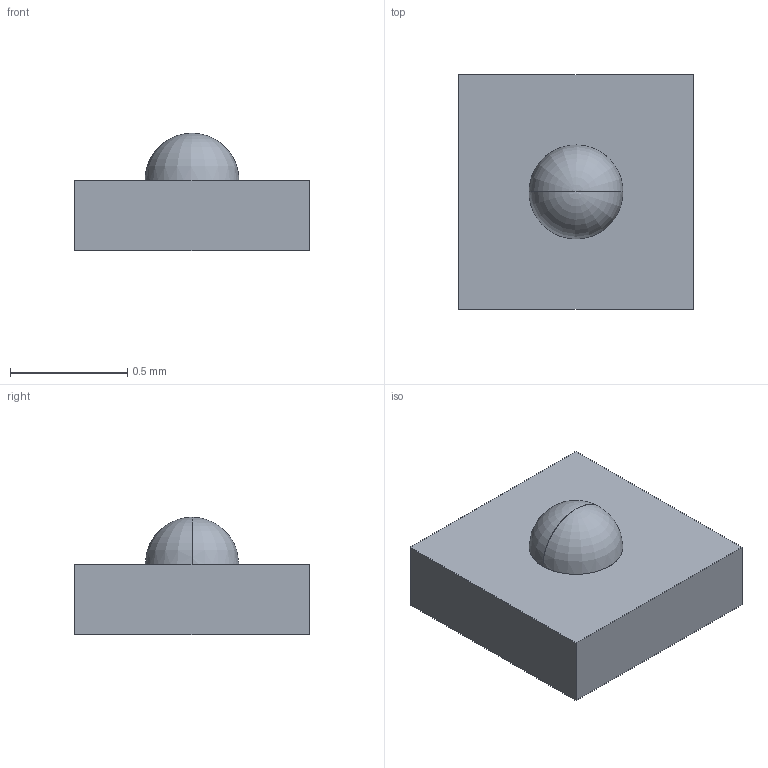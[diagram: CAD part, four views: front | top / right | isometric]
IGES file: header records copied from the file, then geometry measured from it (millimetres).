
Start section:  PTC IGES file: spherical_prt.igs
Global section: file name: spherical_prt.igs; native system: Pro/ENGINEER by Parametric Technology Corporation; preprocessor: 2006170; author: GRA; organization: Unknown; date: 20080630.105212; units: millimetre
Bounding box: 1 x 1 x 0.5 mm (x, y, z)
Surface area: 3.3 mm2 (no closed solid volume)
Topology: 0 solids, 0 shells, 8 faces, 34 edges, 32 vertices
Faces by surface type: bspline 6, revolution 2
